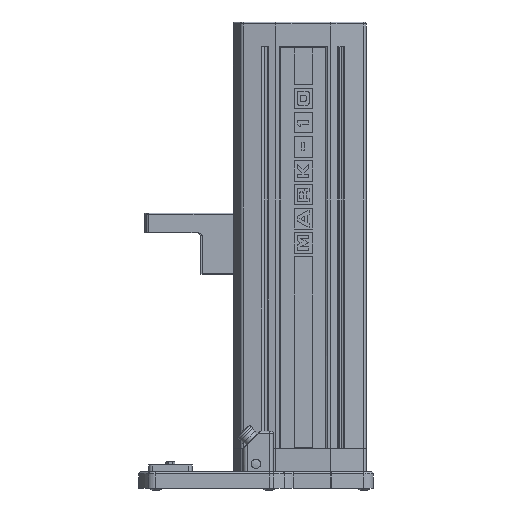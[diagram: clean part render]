
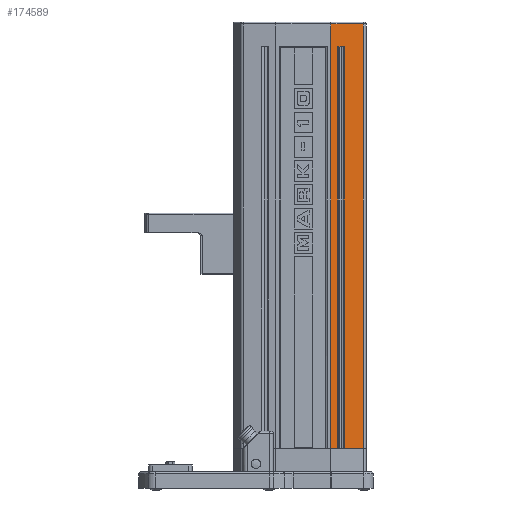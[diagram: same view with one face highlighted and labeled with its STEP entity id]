
A CAD part, front view. The second image highlights one B-rep face of the part: STEP entity #174589.
In plain terms, the highlighted planar face has unit normal (0.104, -0.995, 0).
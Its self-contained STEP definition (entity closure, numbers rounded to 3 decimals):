
#4488=PLANE('',#185080);
#13448=FACE_OUTER_BOUND('',#23159,.T.);
#23159=EDGE_LOOP('',(#143418,#143419,#143420,#143421,#143422,#143423,#143424,
#143425,#143426,#143427));
#37439=LINE('',#258134,#60295);
#37443=LINE('',#258155,#60299);
#40849=LINE('',#265018,#63705);
#41071=LINE('',#265971,#63927);
#41145=LINE('',#266182,#64001);
#41146=LINE('',#266183,#64002);
#41147=LINE('',#266185,#64003);
#41166=LINE('',#266222,#64022);
#41167=LINE('',#266225,#64023);
#41168=LINE('',#266226,#64024);
#60295=VECTOR('',#207876,1.);
#60299=VECTOR('',#207898,1.);
#63705=VECTOR('',#213636,1.);
#63927=VECTOR('',#214554,1.);
#64001=VECTOR('',#214818,1.);
#64002=VECTOR('',#214819,1.);
#64003=VECTOR('',#214822,1.);
#64022=VECTOR('',#214877,1.);
#64023=VECTOR('',#214880,1.);
#64024=VECTOR('',#214881,1.);
#84082=VERTEX_POINT('',#258131);
#84083=VERTEX_POINT('',#258133);
#84090=VERTEX_POINT('',#258152);
#84091=VERTEX_POINT('',#258154);
#86381=VERTEX_POINT('',#265015);
#86382=VERTEX_POINT('',#265017);
#86602=VERTEX_POINT('',#265963);
#86603=VERTEX_POINT('',#265970);
#86627=VERTEX_POINT('',#266181);
#86628=VERTEX_POINT('',#266224);
#103504=EDGE_CURVE('',#84082,#84083,#37439,.T.);
#103515=EDGE_CURVE('',#84090,#84091,#37443,.T.);
#106947=EDGE_CURVE('',#86381,#86382,#40849,.T.);
#107353=EDGE_CURVE('',#86602,#86603,#41071,.T.);
#107446=EDGE_CURVE('',#86603,#86627,#41145,.T.);
#107447=EDGE_CURVE('',#84090,#86627,#41146,.T.);
#107448=EDGE_CURVE('',#84091,#86381,#41147,.T.);
#107467=EDGE_CURVE('',#84082,#86382,#41166,.T.);
#107468=EDGE_CURVE('',#84083,#86628,#41167,.T.);
#107469=EDGE_CURVE('',#86602,#86628,#41168,.T.);
#143418=ORIENTED_EDGE('',*,*,#107468,.F.);
#143419=ORIENTED_EDGE('',*,*,#103504,.F.);
#143420=ORIENTED_EDGE('',*,*,#107467,.T.);
#143421=ORIENTED_EDGE('',*,*,#106947,.F.);
#143422=ORIENTED_EDGE('',*,*,#107448,.F.);
#143423=ORIENTED_EDGE('',*,*,#103515,.F.);
#143424=ORIENTED_EDGE('',*,*,#107447,.T.);
#143425=ORIENTED_EDGE('',*,*,#107446,.F.);
#143426=ORIENTED_EDGE('',*,*,#107353,.F.);
#143427=ORIENTED_EDGE('',*,*,#107469,.T.);
#174589=ADVANCED_FACE('',(#13448),#4488,.T.);
#185080=AXIS2_PLACEMENT_3D('',#266223,#214878,#214879);
#207876=DIRECTION('',(-0.995,-0.104,0.));
#207898=DIRECTION('',(-0.995,-0.104,0.));
#213636=DIRECTION('',(-0.995,-0.104,0.));
#214554=DIRECTION('',(0.995,0.104,0.));
#214818=DIRECTION('',(0.,0.,-1.));
#214819=DIRECTION('',(0.,0.,1.));
#214822=DIRECTION('',(0.,0.,1.));
#214877=DIRECTION('',(0.,0.,1.));
#214878=DIRECTION('center_axis',(0.104,-0.995,0.));
#214879=DIRECTION('ref_axis',(0.995,0.104,0.));
#214880=DIRECTION('',(0.,0.,1.));
#214881=DIRECTION('',(0.,0.,-1.));
#258131=CARTESIAN_POINT('',(47.846,60.853,-18.096));
#258133=CARTESIAN_POINT('',(47.408,60.807,-18.096));
#258134=CARTESIAN_POINT('',(46.685,60.731,-18.096));
#258152=CARTESIAN_POINT('',(49.46,61.022,-18.096));
#258154=CARTESIAN_POINT('',(48.264,60.897,-18.096));
#258155=CARTESIAN_POINT('',(47.492,60.816,-18.096));
#265015=CARTESIAN_POINT('',(48.264,60.897,7.514));
#265017=CARTESIAN_POINT('',(47.846,60.853,7.514));
#265018=CARTESIAN_POINT('',(45.705,60.629,7.514));
#265963=CARTESIAN_POINT('',(47.408,60.807,8.968));
#265970=CARTESIAN_POINT('',(49.46,61.022,8.968));
#265971=CARTESIAN_POINT('',(43.577,60.406,8.968));
#266181=CARTESIAN_POINT('',(49.46,61.022,7.514));
#266182=CARTESIAN_POINT('',(49.46,61.022,7.556));
#266183=CARTESIAN_POINT('',(49.46,61.022,-18.096));
#266185=CARTESIAN_POINT('',(48.264,60.897,-18.096));
#266222=CARTESIAN_POINT('',(47.846,60.853,-18.096));
#266223=CARTESIAN_POINT('Origin',(47.408,60.807,-18.096));
#266224=CARTESIAN_POINT('',(47.408,60.807,7.514));
#266225=CARTESIAN_POINT('',(47.408,60.807,-18.096));
#266226=CARTESIAN_POINT('',(47.408,60.807,7.556));
